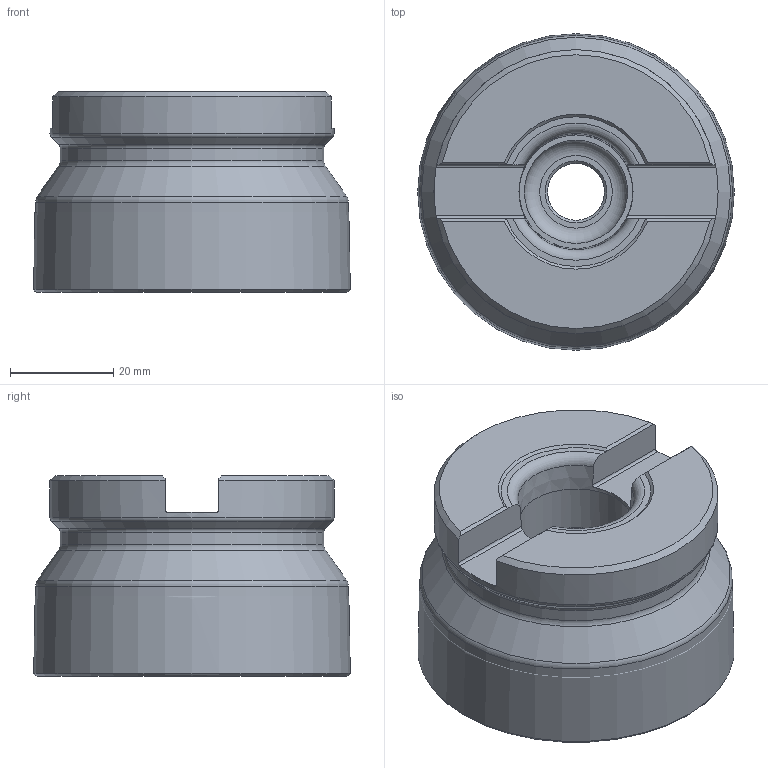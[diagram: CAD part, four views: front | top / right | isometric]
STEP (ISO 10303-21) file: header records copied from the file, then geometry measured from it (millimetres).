
FILE_DESCRIPTION(/* description */ (''),/* implementation_level */ '2;1');
FILE_NAME(/* name */ '637720832881040664.stp',/* time_stamp */ '2021-11-09T19:35:00+08:00',/* author */ (''),/* organization */ (''),/* preprocessor_version */ 'ST-DEVELOPER v16.7',/* originating_system */ 'SIEMENS PLM Software NX 12.0',/* authorisation */ '');
FILE_SCHEMA (('AUTOMOTIVE_DESIGN { 1 0 10303 214 3 1 1 1 }'));
Length unit declared in the file: millimetre
Products named in the file (2): 637720832842957045_LNKT160708PNR-GL; 637720832824612686_EMP09-063-A22-LN16-05C_S
Assembly tree (5 placements, depth 2):
  637720832824612686_EMP09-063-A22-LN16-05C_S
    637720832842957045_LNKT160708PNR-GL  x5
Bounding box: 61.31 x 61.31 x 38.83 mm (x, y, z)
Volume: 103052.2 mm3; surface area: 22102.9 mm2
Topology: 2 solids, 2 shells, 62 faces, 149 edges, 93 vertices
Faces by surface type: plane 20, torus 13, cone 12, cylinder 11, revolution 6
Full cylindrical faces by diameter (mm): 11 x1, 18 x1, 22 x1, 24 x1, 51 x1, 55 x1, 60.58 x1
Entity records: 1911 total; most frequent: CARTESIAN_POINT 580, DIRECTION 256, ORIENTED_EDGE 208, AXIS2_PLACEMENT_3D 113, EDGE_CURVE 104, EDGE_LOOP 98, VERTEX_POINT 80, FACE_BOUND 74
